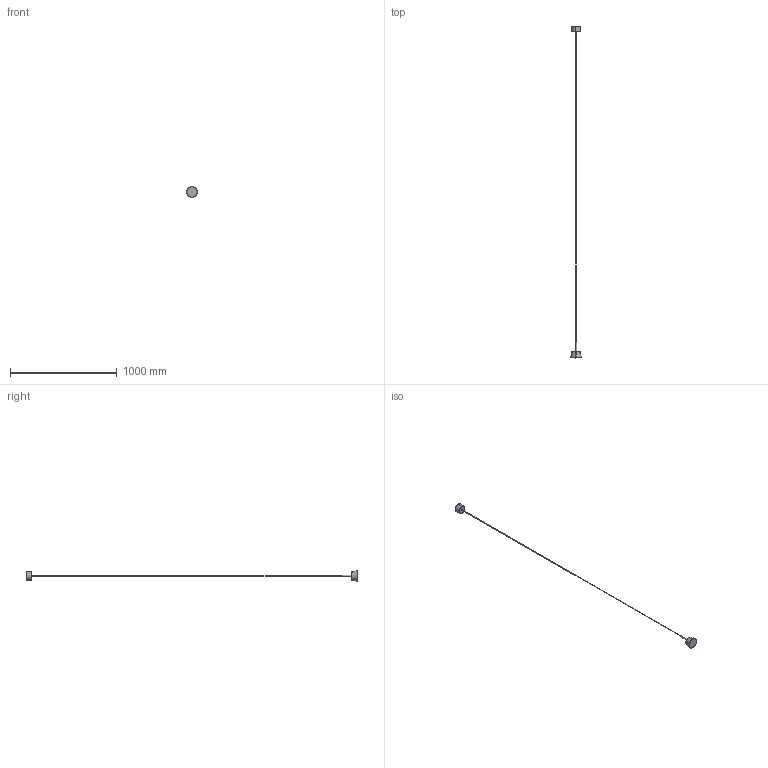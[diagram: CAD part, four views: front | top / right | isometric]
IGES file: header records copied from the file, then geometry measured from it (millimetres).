
Start section: SolidWorks IGES file using analytic representation for surfaces
Global section: file name: C:\Users\Agus\Desktop\propuestas SEPT. 2020\PAUL\C1229.IGS; native system: SolidWorks 2018; preprocessor: SolidWorks 2018; author: Agus; date: 201026.171423; units: millimetre
Bounding box: 100.33 x 3107.02 x 100.33 mm (x, y, z)
Surface area: 131343.4 mm2 (no closed solid volume)
Topology: 0 solids, 0 shells, 35 faces, 752 edges, 752 vertices
Faces by surface type: revolution 18, bspline 17
